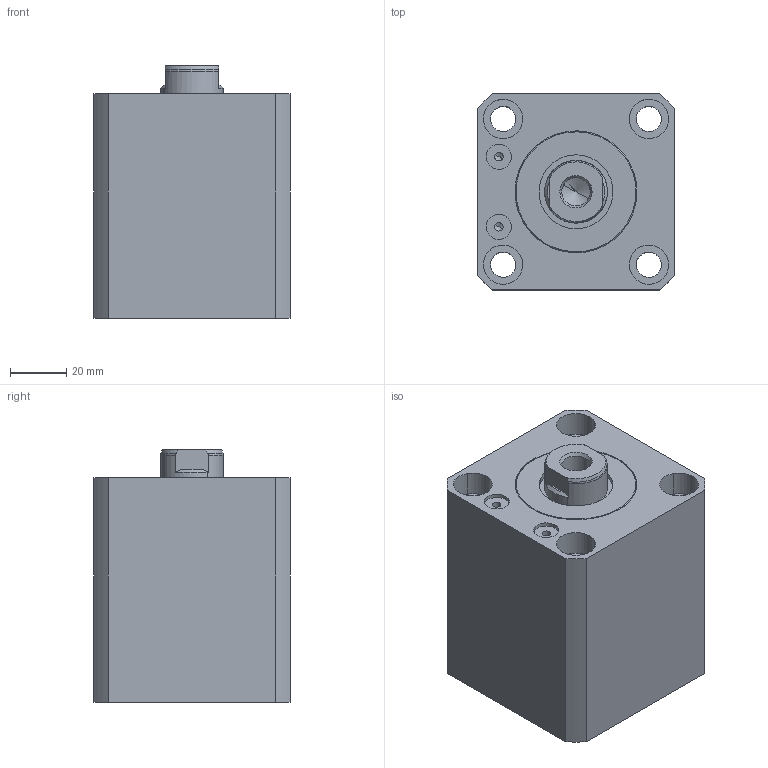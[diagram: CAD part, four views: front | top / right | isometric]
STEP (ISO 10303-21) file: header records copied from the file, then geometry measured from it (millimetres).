
FILE_DESCRIPTION(('CATIA V5 STEP'),'2;1');
FILE_NAME('\\Kjf-102\kjf_tc\Hydraulic_Clamp\Standard\BLOCK_CLAMP\BDx-40xx\G-TYPE\BDV-4025GU_-.stp','2018-12-11T06:46:01+00:00',('none'),('none'),'CATIA Version 5 Release 19 SP 6 (IN-10)','CATIA V5 STEP AP214','none');
FILE_SCHEMA(('AUTOMOTIVE_DESIGN { 1 0 10303 214 1 1 1 1 }'));
Length unit declared in the file: millimetre
Products named in the file (3): BDV-4025GU_-; BDV-4025GU_-_HOUSING; BDx-4025_-_PISTON
Assembly tree (2 placements, depth 2):
  BDV-4025GU_-
    BDV-4025GU_-_HOUSING
    BDx-4025_-_PISTON
Bounding box: 70 x 70 x 90 mm (x, y, z)
Volume: 325878.4 mm3; surface area: 55138.7 mm2
Topology: 2 solids, 2 shells, 92 faces, 222 edges, 145 vertices
Faces by surface type: cylinder 48, plane 26, cone 16, torus 2
Entity records: 2544 total; most frequent: CARTESIAN_POINT 500, ORIENTED_EDGE 432, DIRECTION 310, EDGE_CURVE 216, AXIS2_PLACEMENT_3D 175, VERTEX_POINT 145, CIRCLE 120, EDGE_LOOP 117
